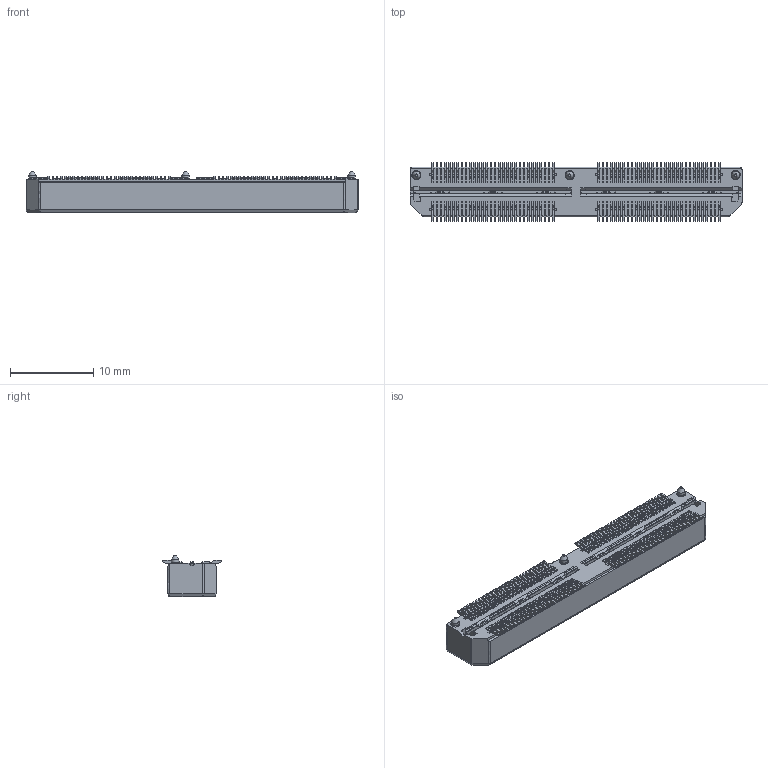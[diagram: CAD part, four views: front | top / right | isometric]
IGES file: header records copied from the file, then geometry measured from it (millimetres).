
Start section: ZWSOFT
Global section: file name: 37201-PM120-042W1R01.igs; native system: ZW3D; preprocessor: 1.0; author: ZW3D; organization: ZWSOFT; date: 230328.111014; units: millimetre
Bounding box: 40 x 7.1 x 5.01 mm (x, y, z)
Surface area: 2474.6 mm2 (no closed solid volume)
Topology: 0 solids, 0 shells, 8661 faces, 49320 edges, 49311 vertices
Faces by surface type: bspline 8661
